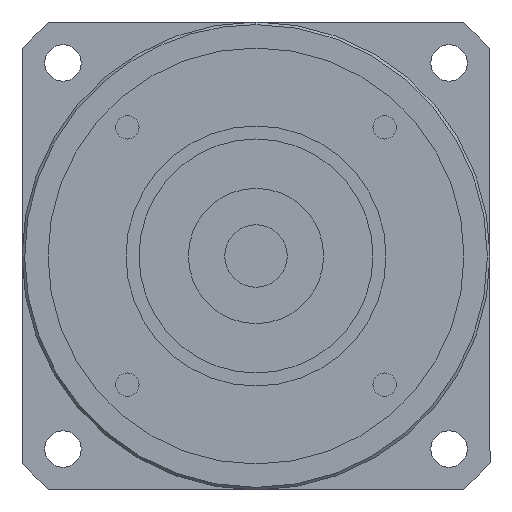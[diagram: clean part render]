
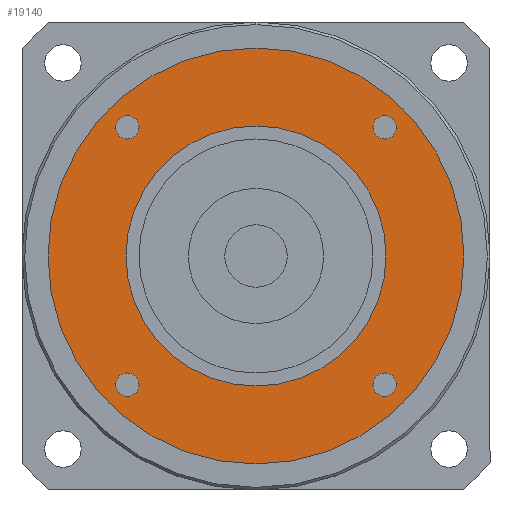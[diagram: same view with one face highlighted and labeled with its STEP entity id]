
A CAD part, left-side view. The second image highlights one B-rep face of the part: STEP entity #19140.
In plain terms, the highlighted planar face has unit normal (-1, 0, 0) as drawn and (0, 0, -1) by its records, which use the part's own axes.
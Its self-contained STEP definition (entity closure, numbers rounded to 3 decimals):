
#17810=CARTESIAN_POINT('',(40.,0.,-122.));
#17820=VERTEX_POINT('',#17810);
#17850=CARTESIAN_POINT('',(0.,0.,
-122.));
#17860=DIRECTION('',(0.,0.,1.));
#17870=DIRECTION('',(0.,-1.,0.));
#17880=AXIS2_PLACEMENT_3D('',#17850,#17860,#17870);
#17890=CIRCLE('',#17880,40.);
#17900=CARTESIAN_POINT('',(0.,-40.,-122.));
#17910=VERTEX_POINT('',#17900);
#17920=EDGE_CURVE('',#17910,#17820,#17890,.T.);
#17940=CARTESIAN_POINT('',(-40.,0.,-122.));
#17950=VERTEX_POINT('',#17940);
#17960=EDGE_CURVE('',#17950,#17910,#17890,.T.);
#18080=CARTESIAN_POINT('',(0.,0.,
-122.));
#18090=DIRECTION('',(0.,0.,1.));
#18100=DIRECTION('',(-1.,0.,0.));
#18110=AXIS2_PLACEMENT_3D('',#18080,#18090,#18100);
#18120=PLANE('',#18110);
#18130=CARTESIAN_POINT('',(24.749,-24.749,-122.));
#18140=DIRECTION('',(0.,0.,-1.));
#18150=DIRECTION('',(1.,0.,0.));
#18160=AXIS2_PLACEMENT_3D('',#18130,#18140,#18150);
#18170=CIRCLE('',#18160,2.25);
#18180=CARTESIAN_POINT('',(26.999,-24.749,-122.));
#18190=VERTEX_POINT('',#18180);
#18200=CARTESIAN_POINT('',(24.749,-26.999,-122.));
#18210=VERTEX_POINT('',#18200);
#18220=EDGE_CURVE('',#18190,#18210,#18170,.T.);
#18230=ORIENTED_EDGE('',*,*,#18220,.F.);
#18240=CARTESIAN_POINT('',(24.749,-22.499,-122.));
#18250=VERTEX_POINT('',#18240);
#18260=EDGE_CURVE('',#18210,#18250,#18170,.T.);
#18270=ORIENTED_EDGE('',*,*,#18260,.F.);
#18280=EDGE_CURVE('',#18250,#18190,#18170,.T.);
#18290=ORIENTED_EDGE('',*,*,#18280,.F.);
#18300=EDGE_LOOP('',(#18290,#18270,#18230));
#18310=FACE_BOUND('',#18300,.T.);
#18320=CARTESIAN_POINT('',(24.749,24.749,-122.));
#18330=DIRECTION('',(0.,0.,-1.));
#18340=DIRECTION('',(0.,1.,0.));
#18350=AXIS2_PLACEMENT_3D('',#18320,#18330,#18340);
#18360=CIRCLE('',#18350,2.25);
#18370=CARTESIAN_POINT('',(24.749,26.999,-122.));
#18380=VERTEX_POINT('',#18370);
#18390=CARTESIAN_POINT('',(26.999,24.749,-122.));
#18400=VERTEX_POINT('',#18390);
#18410=EDGE_CURVE('',#18380,#18400,#18360,.T.);
#18420=ORIENTED_EDGE('',*,*,#18410,.F.);
#18430=CARTESIAN_POINT('',(22.499,24.749,-122.));
#18440=VERTEX_POINT('',#18430);
#18450=EDGE_CURVE('',#18400,#18440,#18360,.T.);
#18460=ORIENTED_EDGE('',*,*,#18450,.F.);
#18470=EDGE_CURVE('',#18440,#18380,#18360,.T.);
#18480=ORIENTED_EDGE('',*,*,#18470,.F.);
#18490=EDGE_LOOP('',(#18480,#18460,#18420));
#18500=FACE_BOUND('',#18490,.T.);
#18510=CARTESIAN_POINT('',(-24.749,24.749,-122.));
#18520=DIRECTION('',(0.,0.,-1.));
#18530=DIRECTION('',(-1.,0.,0.));
#18540=AXIS2_PLACEMENT_3D('',#18510,#18520,#18530);
#18550=CIRCLE('',#18540,2.25);
#18560=CARTESIAN_POINT('',(-26.999,24.749,-122.));
#18570=VERTEX_POINT('',#18560);
#18580=CARTESIAN_POINT('',(-24.749,26.999,-122.));
#18590=VERTEX_POINT('',#18580);
#18600=EDGE_CURVE('',#18570,#18590,#18550,.T.);
#18610=ORIENTED_EDGE('',*,*,#18600,.F.);
#18620=CARTESIAN_POINT('',(-24.749,22.499,-122.));
#18630=VERTEX_POINT('',#18620);
#18640=EDGE_CURVE('',#18590,#18630,#18550,.T.);
#18650=ORIENTED_EDGE('',*,*,#18640,.F.);
#18660=EDGE_CURVE('',#18630,#18570,#18550,.T.);
#18670=ORIENTED_EDGE('',*,*,#18660,.F.);
#18680=EDGE_LOOP('',(#18670,#18650,#18610));
#18690=FACE_BOUND('',#18680,.T.);
#18700=CARTESIAN_POINT('',(-24.749,-24.749,-122.));
#18710=DIRECTION('',(0.,0.,-1.));
#18720=DIRECTION('',(0.,-1.,0.));
#18730=AXIS2_PLACEMENT_3D('',#18700,#18710,#18720);
#18740=CIRCLE('',#18730,2.25);
#18750=CARTESIAN_POINT('',(-24.749,-26.999,-122.));
#18760=VERTEX_POINT('',#18750);
#18770=CARTESIAN_POINT('',(-26.999,-24.749,-122.));
#18780=VERTEX_POINT('',#18770);
#18790=EDGE_CURVE('',#18760,#18780,#18740,.T.);
#18800=ORIENTED_EDGE('',*,*,#18790,.F.);
#18810=CARTESIAN_POINT('',(-22.499,-24.749,-122.));
#18820=VERTEX_POINT('',#18810);
#18830=EDGE_CURVE('',#18780,#18820,#18740,.T.);
#18840=ORIENTED_EDGE('',*,*,#18830,.F.);
#18850=EDGE_CURVE('',#18820,#18760,#18740,.T.);
#18860=ORIENTED_EDGE('',*,*,#18850,.F.);
#18870=EDGE_LOOP('',(#18860,#18840,#18800));
#18880=FACE_BOUND('',#18870,.T.);
#18890=ORIENTED_EDGE('',*,*,#17920,.F.);
#18900=EDGE_CURVE('',#17820,#17950,#17890,.T.);
#18910=ORIENTED_EDGE('',*,*,#18900,.F.);
#18920=ORIENTED_EDGE('',*,*,#17960,.F.);
#18930=EDGE_LOOP('',(#18920,#18910,#18890));
#18940=FACE_OUTER_BOUND('',#18930,.T.);
#18950=CARTESIAN_POINT('',(0.,0.,
-122.));
#18960=DIRECTION('',(0.,0.,1.));
#18970=DIRECTION('',(0.,-1.,0.));
#18980=AXIS2_PLACEMENT_3D('',#18950,#18960,#18970);
#18990=CIRCLE('',#18980,25.);
#19000=CARTESIAN_POINT('',(25.,0.,-122.));
#19010=VERTEX_POINT('',#19000);
#19020=CARTESIAN_POINT('',(-25.,0.,-122.));
#19030=VERTEX_POINT('',#19020);
#19040=EDGE_CURVE('',#19010,#19030,#18990,.T.);
#19050=ORIENTED_EDGE('',*,*,#19040,.T.);
#19060=CARTESIAN_POINT('',(0.,-25.,-122.));
#19070=VERTEX_POINT('',#19060);
#19080=EDGE_CURVE('',#19070,#19010,#18990,.T.);
#19090=ORIENTED_EDGE('',*,*,#19080,.T.);
#19100=EDGE_CURVE('',#19030,#19070,#18990,.T.);
#19110=ORIENTED_EDGE('',*,*,#19100,.T.);
#19120=EDGE_LOOP('',(#19110,#19090,#19050));
#19130=FACE_BOUND('',#19120,.T.);
#19140=ADVANCED_FACE('',(#18310,#18500,#18690,#18880,#18940,#19130),
#18120,.F.);
